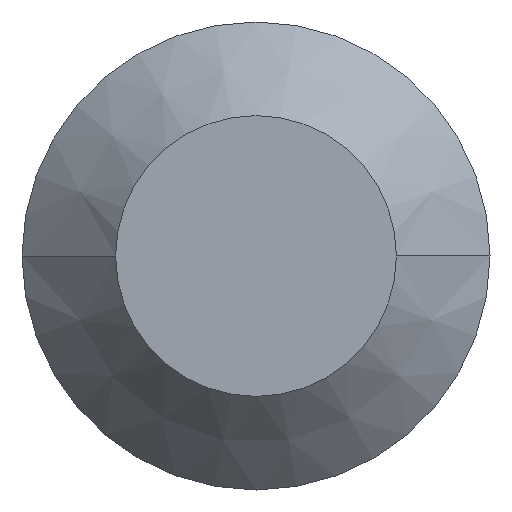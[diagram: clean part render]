
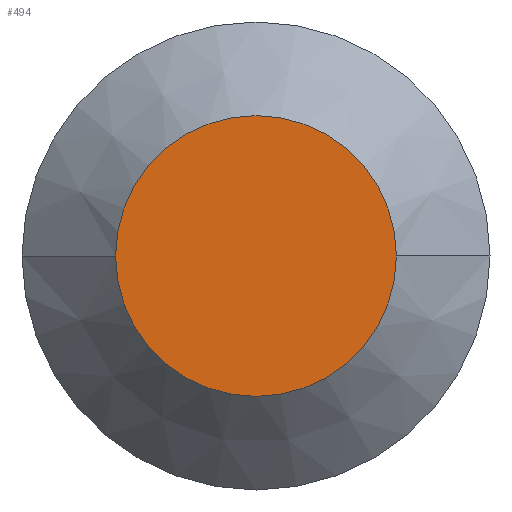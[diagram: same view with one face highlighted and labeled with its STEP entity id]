
A CAD part, front view. The second image highlights one B-rep face of the part: STEP entity #494.
In plain terms, the highlighted planar face has unit normal (0, -1, 0).
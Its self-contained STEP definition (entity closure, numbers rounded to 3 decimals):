
#88 = ORIENTED_EDGE ( 'NONE', *, *, #876, .F. ) ;
#99 = VERTEX_POINT ( 'NONE', #1397 ) ;
#309 = DIRECTION ( 'NONE',  ( 0., 1., 0. ) ) ;
#326 = CARTESIAN_POINT ( 'NONE',  ( 0., 0., 0. ) ) ;
#390 = VERTEX_POINT ( 'NONE', #1322 ) ;
#413 = AXIS2_PLACEMENT_3D ( 'NONE', #1174, #506, #517 ) ;
#472 = PLANE ( 'NONE',  #821 ) ;
#494 = ADVANCED_FACE ( 'NONE', ( #521 ), #472, .T. ) ;
#506 = DIRECTION ( 'NONE',  ( 0., 1., 0. ) ) ;
#517 = DIRECTION ( 'NONE',  ( -1., 0., 0. ) ) ;
#521 = FACE_OUTER_BOUND ( 'NONE', #900, .T. ) ;
#713 = CARTESIAN_POINT ( 'NONE',  ( -6., 0., 0. ) ) ;
#821 = AXIS2_PLACEMENT_3D ( 'NONE', #713, #1168, #1053 ) ;
#876 = EDGE_CURVE ( 'NONE', #390, #99, #1460, .T. ) ;
#900 = EDGE_LOOP ( 'NONE', ( #88, #995 ) ) ;
#939 = CIRCLE ( 'NONE', #1480, 6. ) ;
#995 = ORIENTED_EDGE ( 'NONE', *, *, #1255, .F. ) ;
#1053 = DIRECTION ( 'NONE',  ( 1., 0., 0. ) ) ;
#1104 = DIRECTION ( 'NONE',  ( -1., 0., 0. ) ) ;
#1168 = DIRECTION ( 'NONE',  ( 0., -1., 0. ) ) ;
#1174 = CARTESIAN_POINT ( 'NONE',  ( 0., 0., 0. ) ) ;
#1255 = EDGE_CURVE ( 'NONE', #99, #390, #939, .T. ) ;
#1322 = CARTESIAN_POINT ( 'NONE',  ( -6., 0., 0. ) ) ;
#1397 = CARTESIAN_POINT ( 'NONE',  ( 6., 0., 0. ) ) ;
#1460 = CIRCLE ( 'NONE', #413, 6. ) ;
#1480 = AXIS2_PLACEMENT_3D ( 'NONE', #326, #309, #1104 ) ;
